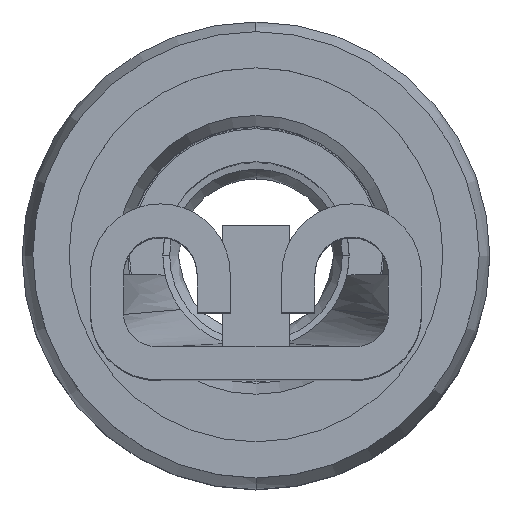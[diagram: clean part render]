
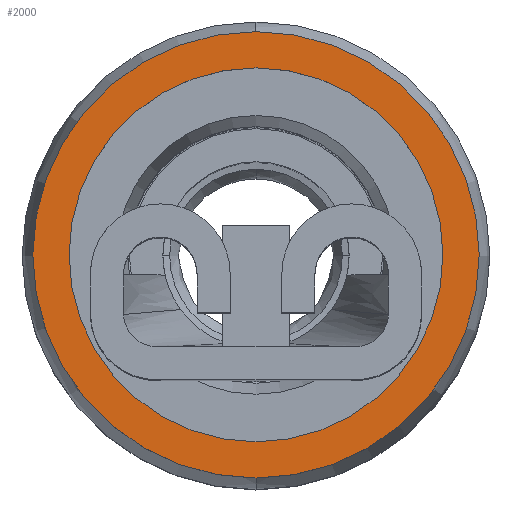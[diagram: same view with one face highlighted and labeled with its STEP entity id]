
A CAD part, top view. The second image highlights one B-rep face of the part: STEP entity #2000.
In plain terms, the highlighted planar face has unit normal (0, 0, 1).
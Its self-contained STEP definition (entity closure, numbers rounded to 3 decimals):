
#44 = FACE_OUTER_BOUND ( 'NONE', #4785, .T. ) ;
#48 = FACE_BOUND ( 'NONE', #4770, .T. ) ;
#552 = AXIS2_PLACEMENT_3D ( 'NONE', #980, #981, #982 ) ;
#973 = PLANE ( 'NONE',  #552 ) ;
#980 = CARTESIAN_POINT ( 'NONE',  ( 0., 1.549, -8.954 ) ) ;
#981 = DIRECTION ( 'NONE',  ( 0., 0., -1. ) ) ;
#982 = DIRECTION ( 'NONE',  ( -1., 0., 0. ) ) ;
#1122 = CARTESIAN_POINT ( 'NONE',  ( 0., 1.549, -8.954 ) ) ;
#1123 = DIRECTION ( 'NONE',  ( 0., 0., 1. ) ) ;
#1124 = DIRECTION ( 'NONE',  ( -1., 0., 0. ) ) ;
#1443 = CIRCLE ( 'NONE', #3686, 2.74 ) ;
#1481 = CIRCLE ( 'NONE', #3698, 2.74 ) ;
#1536 = CIRCLE ( 'NONE', #3011, 2.295 ) ;
#2000 = ADVANCED_FACE ( 'NONE', ( #48, #44 ), #973, .F. ) ;
#2239 = CIRCLE ( 'NONE', #3044, 2.295 ) ;
#2399 = EDGE_CURVE ( 'NONE', #4297, #4304, #1443, .T. ) ;
#2426 = EDGE_CURVE ( 'NONE', #4304, #4297, #1481, .T. ) ;
#2471 = EDGE_CURVE ( 'NONE', #4313, #4307, #1536, .T. ) ;
#2543 = EDGE_CURVE ( 'NONE', #4307, #4313, #2239, .T. ) ;
#3011 = AXIS2_PLACEMENT_3D ( 'NONE', #1122, #1123, #1124 ) ;
#3044 = AXIS2_PLACEMENT_3D ( 'NONE', #3999, #4000, #4001 ) ;
#3373 = CARTESIAN_POINT ( 'NONE',  ( 0., 1.549, -8.954 ) ) ;
#3374 = DIRECTION ( 'NONE',  ( 0., 0., -1. ) ) ;
#3375 = DIRECTION ( 'NONE',  ( -1., 0., 0. ) ) ;
#3457 = CARTESIAN_POINT ( 'NONE',  ( 0., 1.549, -8.954 ) ) ;
#3458 = DIRECTION ( 'NONE',  ( 0., 0., -1. ) ) ;
#3459 = DIRECTION ( 'NONE',  ( -1., 0., 0. ) ) ;
#3686 = AXIS2_PLACEMENT_3D ( 'NONE', #3373, #3374, #3375 ) ;
#3698 = AXIS2_PLACEMENT_3D ( 'NONE', #3457, #3458, #3459 ) ;
#3999 = CARTESIAN_POINT ( 'NONE',  ( 0., 1.549, -8.954 ) ) ;
#4000 = DIRECTION ( 'NONE',  ( 0., 0., 1. ) ) ;
#4001 = DIRECTION ( 'NONE',  ( -1., 0., 0. ) ) ;
#4026 = CARTESIAN_POINT ( 'NONE',  ( -2.74, 1.549, -8.954 ) ) ;
#4033 = CARTESIAN_POINT ( 'NONE',  ( 2.74, 1.549, -8.954 ) ) ;
#4036 = CARTESIAN_POINT ( 'NONE',  ( 2.295, 1.549, -8.954 ) ) ;
#4042 = CARTESIAN_POINT ( 'NONE',  ( -2.295, 1.549, -8.954 ) ) ;
#4297 = VERTEX_POINT ( 'NONE', #4026 ) ;
#4304 = VERTEX_POINT ( 'NONE', #4033 ) ;
#4307 = VERTEX_POINT ( 'NONE', #4036 ) ;
#4313 = VERTEX_POINT ( 'NONE', #4042 ) ;
#4770 = EDGE_LOOP ( 'NONE', ( #4911, #4912 ) ) ;
#4785 = EDGE_LOOP ( 'NONE', ( #4913, #4914 ) ) ;
#4911 = ORIENTED_EDGE ( 'NONE', *, *, #2471, .F. ) ;
#4912 = ORIENTED_EDGE ( 'NONE', *, *, #2543, .F. ) ;
#4913 = ORIENTED_EDGE ( 'NONE', *, *, #2399, .F. ) ;
#4914 = ORIENTED_EDGE ( 'NONE', *, *, #2426, .F. ) ;
